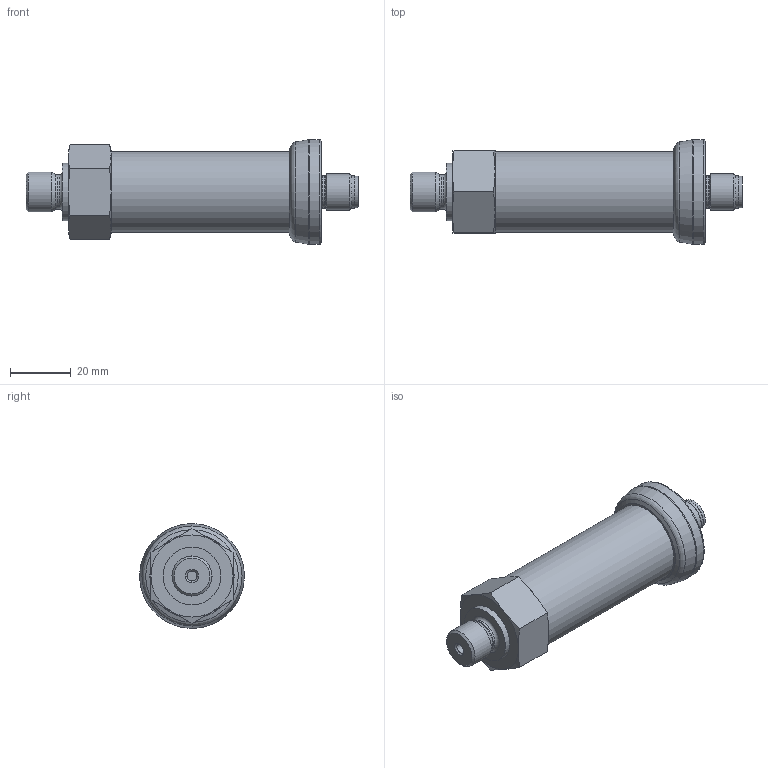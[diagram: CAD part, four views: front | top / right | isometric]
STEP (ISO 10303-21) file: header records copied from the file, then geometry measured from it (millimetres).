
FILE_DESCRIPTION(/* description */ (''),/* implementation_level */ '2;1');
FILE_NAME(/* name */ 'C:\Users\cz1166\Documents\STEP\DMP333i-13x-xxxx-x-x-M1x-300-x-111.stp',/* time_stamp */ '2021-10-07T11:24:26+02:00',/* author */ ('cz1166'),/* organization */ (''),/* preprocessor_version */ 'ST-DEVELOPER v18.1',/* originating_system */ 'Autodesk Inventor 2021',/* authorisation */ '');
FILE_SCHEMA (('AUTOMOTIVE_DESIGN { 1 0 10303 214 3 1 1 }'));
Length unit declared in the file: millimetre
Products named in the file (1): DMP333i-13x-xxxx-x-x-M1x-300-x-111
Bounding box: 109.3 x 34.5 x 34.5 mm (x, y, z)
Volume: 53322.8 mm3; surface area: 10754.1 mm2
Topology: 1 solids, 3 shells, 181 faces, 467 edges, 305 vertices
Faces by surface type: plane 86, cylinder 31, bspline 31, cone 19, torus 10, sphere 4
Full cylindrical faces by diameter (mm): 1 x4, 3.3 x1, 8.3 x1, 9.4 x1, 9.5 x1, 10.4 x1, 10.6 x2, 11.2 x1, 12 x1, 13.157 x1, 19 x1, 21.4 x1, 26.5 x1, 34.5 x1
Entity records: 5897 total; most frequent: CARTESIAN_POINT 1401, ORIENTED_EDGE 926, DIRECTION 808, EDGE_CURVE 463, VERTEX_POINT 305, AXIS2_PLACEMENT_3D 280, LINE 248, VECTOR 248
